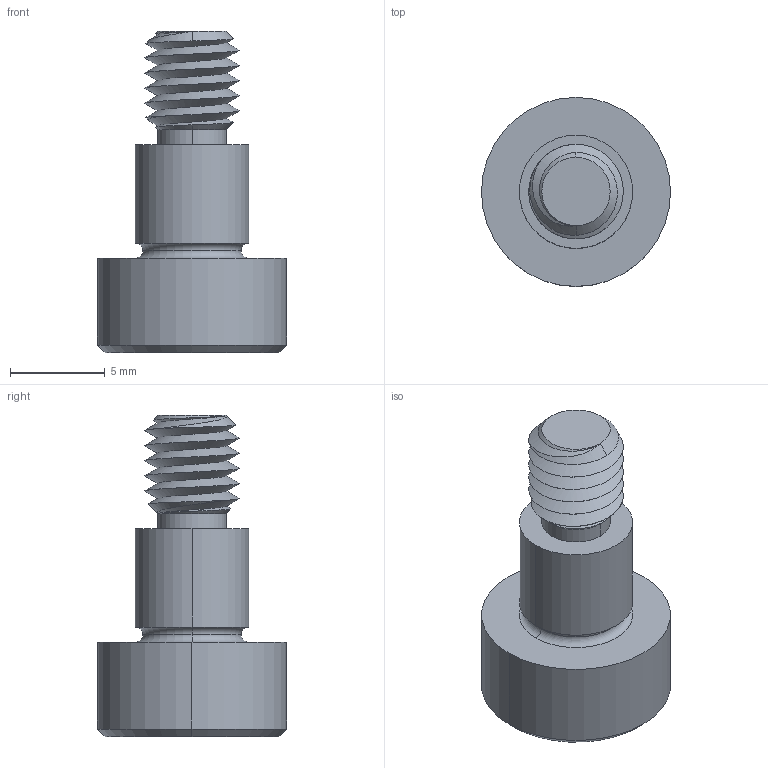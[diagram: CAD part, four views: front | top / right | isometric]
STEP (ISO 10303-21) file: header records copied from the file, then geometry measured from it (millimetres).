
FILE_DESCRIPTION (( 'STEP AP203' ), '1' );
FILE_NAME ('P0130.060-006-B2.step', '2021-11-09T21:21:42', ( '' ), ( '' ), 'SwSTEP 2.0', 'SolidWorks 2019', '' );
FILE_SCHEMA (( 'CONFIG_CONTROL_DESIGN' ));
Length unit declared in the file: millimetre
Products named in the file (1): P0130.060-006-B2
Bounding box: 10 x 10 x 17 mm (x, y, z)
Volume: 612.9 mm3; surface area: 600.6 mm2
Topology: 1 solids, 1 shells, 53 faces, 121 edges, 71 vertices
Faces by surface type: cylinder 17, plane 16, cone 14, torus 4, bspline 2
Entity records: 2367 total; most frequent: CARTESIAN_POINT 1186, ORIENTED_EDGE 238, DIRECTION 226, EDGE_CURVE 119, AXIS2_PLACEMENT_3D 92, VERTEX_POINT 71, EDGE_LOOP 56, ADVANCED_FACE 53
